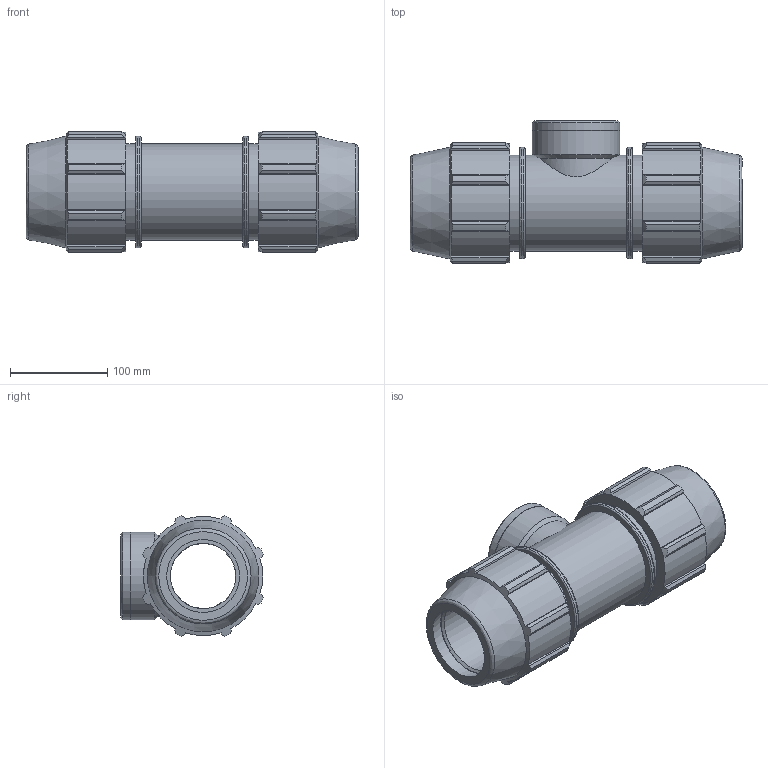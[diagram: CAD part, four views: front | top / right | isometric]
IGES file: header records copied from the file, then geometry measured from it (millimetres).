
Global section: file name: 871400075025_181400075025_841406075025.ipt; native system: Autodesk Inventor 2015; preprocessor: unknown; author: KIM; date: 20180325.201226; units: millimetre
Bounding box: 342 x 147.1 x 124.2 mm (x, y, z)
Volume: 1880963.3 mm3; surface area: 252218.8 mm2
Topology: 1 solids, 1 shells, 158 faces, 446 edges, 301 vertices
Faces by surface type: plane 79, cylinder 41, cone 23, revolution 15
Full cylindrical faces by diameter (mm): 90.282 x2, 99 x3, 114.84 x2
